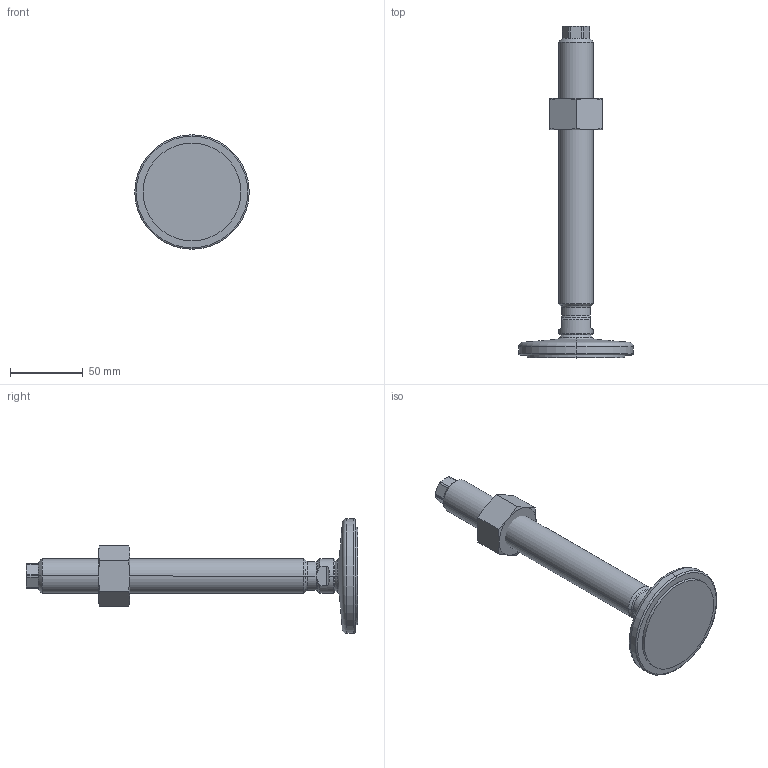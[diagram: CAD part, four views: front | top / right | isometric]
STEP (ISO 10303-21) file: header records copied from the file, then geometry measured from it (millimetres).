
FILE_DESCRIPTION (( 'STEP AP214' ), '1' );
FILE_NAME ('21-80-M24-200-D1-VK.step', '2020-10-02T17:36:38', ( '' ), ( '' ), 'SwSTEP 2.0', 'SolidWorks 2019', '' );
FILE_SCHEMA (( 'AUTOMOTIVE_DESIGN' ));
Length unit declared in the file: millimetre
Products named in the file (4): WB4032^WB21_V_M24; WB21_Spindel_V^WB21_V_M24-200; WB21_Fußteller 21^WB21_V_D1-080-R14-B9 (M24); 21-80-M24-200-D1-VK
Assembly tree (3 placements, depth 2):
  21-80-M24-200-D1-VK
    WB21_Fußteller 21^WB21_V_D1-080-R14-B9 (M24)
    WB21_Spindel_V^WB21_V_M24-200
    WB4032^WB21_V_M24
Bounding box: 79 x 228.9 x 79 mm (x, y, z)
Volume: 164518.2 mm3; surface area: 34553.3 mm2
Topology: 3 solids, 3 shells, 98 faces, 219 edges, 129 vertices
Faces by surface type: cone 29, plane 28, cylinder 27, torus 10, sphere 4
Entity records: 3129 total; most frequent: CARTESIAN_POINT 736, DIRECTION 476, ORIENTED_EDGE 438, EDGE_CURVE 219, AXIS2_PLACEMENT_3D 205, VERTEX_POINT 129, EDGE_LOOP 102, CIRCLE 101
